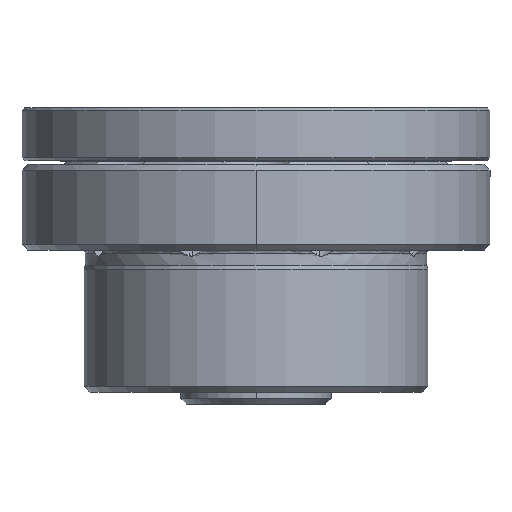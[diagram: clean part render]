
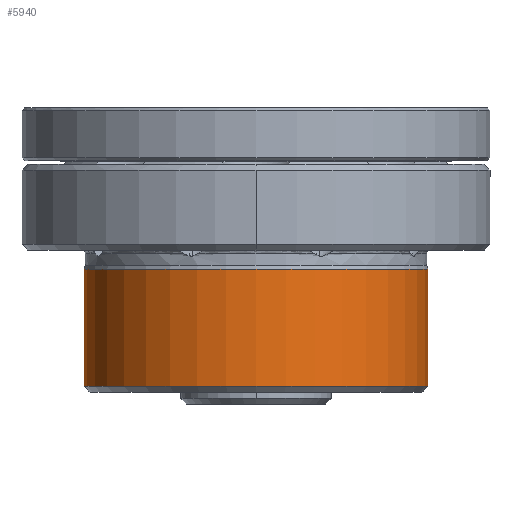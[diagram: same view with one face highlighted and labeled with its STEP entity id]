
A CAD part, front view. The second image highlights one B-rep face of the part: STEP entity #5940.
In plain terms, the highlighted cylindrical face has radius 29 mm (diameter 58 mm), a partial arc.
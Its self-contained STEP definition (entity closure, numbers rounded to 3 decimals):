
#1600 = CARTESIAN_POINT ( 'NONE',  ( 29., 0., -18.2 ) ) ;
#1606 = CARTESIAN_POINT ( 'NONE',  ( -29., 0., -18.2 ) ) ;
#1607 = DIRECTION ( 'NONE',  ( 0., 0., 1. ) ) ;
#1608 = VECTOR ( 'NONE', #1607, 1000. ) ;
#1609 = CARTESIAN_POINT ( 'NONE',  ( -29., 0., -38. ) ) ;
#1610 = LINE ( 'NONE', #1609, #1608 ) ;
#1718 = DIRECTION ( 'NONE',  ( 0., 0., 1. ) ) ;
#1719 = VECTOR ( 'NONE', #1718, 1000. ) ;
#1720 = CARTESIAN_POINT ( 'NONE',  ( 29., 0., -38. ) ) ;
#1721 = LINE ( 'NONE', #1720, #1719 ) ;
#4915 = EDGE_CURVE ( 'NONE', #5725, #4916, #1610, .T. ) ;
#4916 = VERTEX_POINT ( 'NONE', #1606 ) ;
#4919 = VERTEX_POINT ( 'NONE', #1600 ) ;
#4975 = EDGE_CURVE ( 'NONE', #5719, #4919, #1721, .T. ) ;
#5478 = EDGE_CURVE ( 'NONE', #4916, #4919, #11424, .T. ) ;
#5719 = VERTEX_POINT ( 'NONE', #11859 ) ;
#5725 = VERTEX_POINT ( 'NONE', #11902 ) ;
#5882 = EDGE_LOOP ( 'NONE', ( #5943, #5944, #5946, #5947 ) ) ;
#5940 = ADVANCED_FACE ( 'NONE', ( #12272 ), #12271, .T. ) ;
#5943 = ORIENTED_EDGE ( 'NONE', *, *, #4915, .F. ) ;
#5944 = ORIENTED_EDGE ( 'NONE', *, *, #5945, .T. ) ;
#5945 = EDGE_CURVE ( 'NONE', #5725, #5719, #12266, .T. ) ;
#5946 = ORIENTED_EDGE ( 'NONE', *, *, #4975, .T. ) ;
#5947 = ORIENTED_EDGE ( 'NONE', *, *, #5478, .F. ) ;
#11420 = DIRECTION ( 'NONE',  ( 1., 0., 0. ) ) ;
#11421 = DIRECTION ( 'NONE',  ( 0., 0., 1. ) ) ;
#11422 = CARTESIAN_POINT ( 'NONE',  ( 0., 0., -18.2 ) ) ;
#11423 = AXIS2_PLACEMENT_3D ( 'NONE', #11422, #11421, #11420 ) ;
#11424 = CIRCLE ( 'NONE', #11423, 29. ) ;
#11859 = CARTESIAN_POINT ( 'NONE',  ( 29., 0., -38. ) ) ;
#11902 = CARTESIAN_POINT ( 'NONE',  ( -29., 0., -38. ) ) ;
#12262 = DIRECTION ( 'NONE',  ( 1., 0., 0. ) ) ;
#12263 = DIRECTION ( 'NONE',  ( 0., 0., 1. ) ) ;
#12264 = CARTESIAN_POINT ( 'NONE',  ( 0., 0., -38. ) ) ;
#12265 = AXIS2_PLACEMENT_3D ( 'NONE', #12264, #12263, #12262 ) ;
#12266 = CIRCLE ( 'NONE', #12265, 29. ) ;
#12267 = DIRECTION ( 'NONE',  ( 1., 0., 0. ) ) ;
#12268 = DIRECTION ( 'NONE',  ( 0., 0., 1. ) ) ;
#12269 = AXIS2_PLACEMENT_3D ( 'NONE', #12276, #12268, #12267 ) ;
#12271 = CYLINDRICAL_SURFACE ( 'NONE', #12269, 29. ) ;
#12272 = FACE_OUTER_BOUND ( 'NONE', #5882, .T. ) ;
#12276 = CARTESIAN_POINT ( 'NONE',  ( 0., 0., -38. ) ) ;
